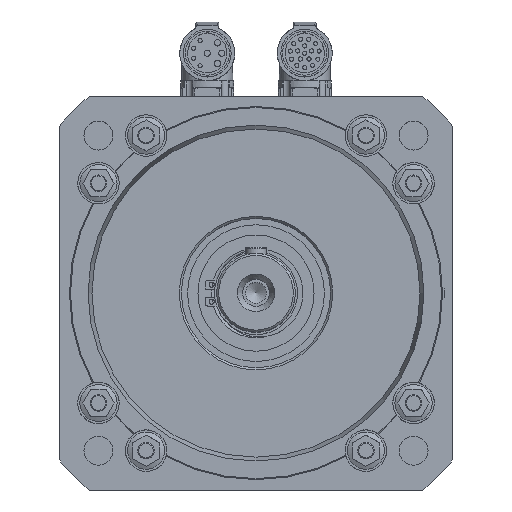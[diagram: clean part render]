
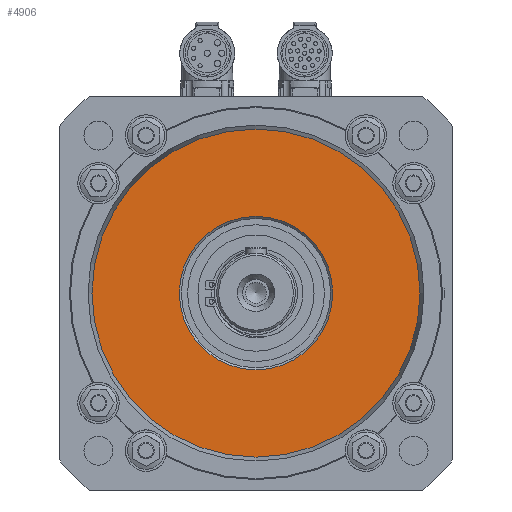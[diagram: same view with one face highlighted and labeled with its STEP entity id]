
A CAD part, top view. The second image highlights one B-rep face of the part: STEP entity #4906.
In plain terms, the highlighted planar face has unit normal (0, 0, 1) as drawn and (0, -1, 0) by its records, which use the part's own axes.
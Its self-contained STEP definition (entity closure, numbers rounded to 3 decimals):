
#4906 = ADVANCED_FACE( '', ( #9704, #9705 ), #9706, .F. );
#9704 = FACE_BOUND( '', #17935, .T. );
#9705 = FACE_OUTER_BOUND( '', #17936, .T. );
#9706 = PLANE( '', #17937 );
#17935 = EDGE_LOOP( '', ( #31672 ) );
#17936 = EDGE_LOOP( '', ( #31673 ) );
#17937 = AXIS2_PLACEMENT_3D( '', #31674, #31675, #31676 );
#31672 = ORIENTED_EDGE( '', *, *, #37939, .T. );
#31673 = ORIENTED_EDGE( '', *, *, #40179, .T. );
#31674 = CARTESIAN_POINT( '', ( 0., -34.896, 79.124 ) );
#31675 = DIRECTION( '', ( 0., 1., 0. ) );
#31676 = DIRECTION( '', ( 0., 0., 1. ) );
#37939 = EDGE_CURVE( '', #47281, #47281, #47282, .T. );
#40179 = EDGE_CURVE( '', #51121, #51121, #51122, .T. );
#47281 = VERTEX_POINT( '', #56366 );
#47282 = CIRCLE( '', #56367, 37. );
#51121 = VERTEX_POINT( '', #64135 );
#51122 = CIRCLE( '', #64136, 79.124 );
#56366 = CARTESIAN_POINT( '', ( 0., -34.896, 37. ) );
#56367 = AXIS2_PLACEMENT_3D( '', #75705, #75706, #75707 );
#64135 = CARTESIAN_POINT( '', ( 0., -34.896, -79.124 ) );
#64136 = AXIS2_PLACEMENT_3D( '', #79360, #79361, #79362 );
#75705 = CARTESIAN_POINT( '', ( 0., -34.896, 0. ) );
#75706 = DIRECTION( '', ( 0., 1., 0. ) );
#75707 = DIRECTION( '', ( 0., 0., 1. ) );
#79360 = CARTESIAN_POINT( '', ( 0., -34.896, 0. ) );
#79361 = DIRECTION( '', ( 0., -1., 0. ) );
#79362 = DIRECTION( '', ( 0., 0., -1. ) );
